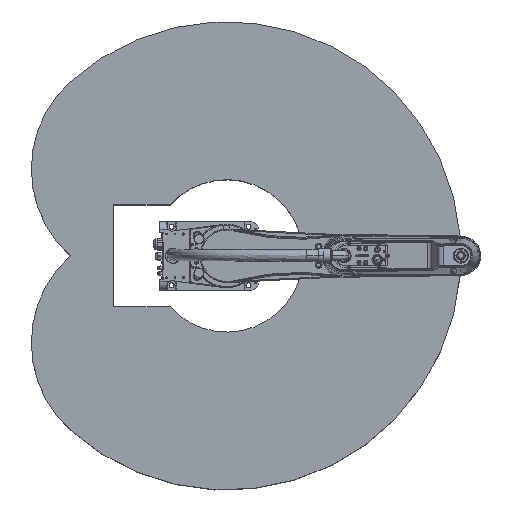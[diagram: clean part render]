
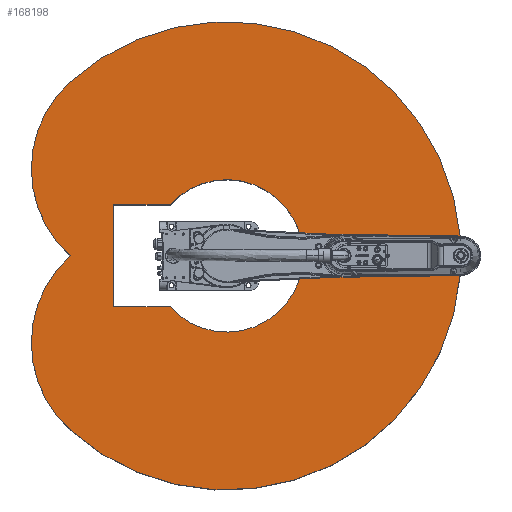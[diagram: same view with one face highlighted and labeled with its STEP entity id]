
A CAD part, top view. The second image highlights one B-rep face of the part: STEP entity #168198.
In plain terms, the highlighted planar face has unit normal (0, 0, 1) as drawn and (0, 1, 0) by its records, which use the part's own axes.
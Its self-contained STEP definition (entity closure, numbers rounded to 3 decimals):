
#310 = ORIENTED_EDGE ( 'NONE', *, *, #35679, .F. ) ;
#2119 = DIRECTION ( 'NONE',  ( 0., 0., -1. ) ) ;
#2168 = CIRCLE ( 'NONE', #8223, 350. ) ;
#4419 = FACE_OUTER_BOUND ( 'NONE', #53969, .T. ) ;
#7558 = DIRECTION ( 'NONE',  ( 0., -1., 0. ) ) ;
#8223 = AXIS2_PLACEMENT_3D ( 'NONE', #121255, #7558, #135933 ) ;
#9644 = CARTESIAN_POINT ( 'NONE',  ( 130.05, 188., 337.5 ) ) ;
#12552 = LINE ( 'NONE', #9644, #178453 ) ;
#13416 = CIRCLE ( 'NONE', #123381, 227.9 ) ;
#14490 = AXIS2_PLACEMENT_3D ( 'NONE', #116243, #43794, #176071 ) ;
#14611 = VERTEX_POINT ( 'NONE', #50019 ) ;
#15288 = ORIENTED_EDGE ( 'NONE', *, *, #32590, .F. ) ;
#16310 = CARTESIAN_POINT ( 'NONE',  ( -260.101, 188., 234.196 ) ) ;
#16661 = AXIS2_PLACEMENT_3D ( 'NONE', #16310, #118514, #161859 ) ;
#18734 = CARTESIAN_POINT ( 'NONE',  ( 0., 188., 0. ) ) ;
#19315 = AXIS2_PLACEMENT_3D ( 'NONE', #156279, #71634, #127020 ) ;
#22034 = CIRCLE ( 'NONE', #14490, 700. ) ;
#25751 = VERTEX_POINT ( 'NONE', #32998 ) ;
#27662 = VERTEX_POINT ( 'NONE', #166182 ) ;
#28557 = PLANE ( 'NONE',  #147611 ) ;
#29866 = DIRECTION ( 'NONE',  ( 0., 0., 1. ) ) ;
#31867 = ORIENTED_EDGE ( 'NONE', *, *, #147370, .T. ) ;
#32223 = VERTEX_POINT ( 'NONE', #42579 ) ;
#32590 = EDGE_CURVE ( 'NONE', #25751, #172630, #2168, .T. ) ;
#32998 = CARTESIAN_POINT ( 'NONE',  ( -260.101, 188., 584.196 ) ) ;
#35679 = EDGE_CURVE ( 'NONE', #14611, #168258, #124253, .T. ) ;
#37430 = ORIENTED_EDGE ( 'NONE', *, *, #176707, .T. ) ;
#42579 = CARTESIAN_POINT ( 'NONE',  ( 152.5, 188., 337.5 ) ) ;
#43794 = DIRECTION ( 'NONE',  ( 0., -1., 0. ) ) ;
#49047 = CARTESIAN_POINT ( 'NONE',  ( -152.5, 188., 337.5 ) ) ;
#50019 = CARTESIAN_POINT ( 'NONE',  ( 520.201, 188., 468.391 ) ) ;
#53969 = EDGE_LOOP ( 'NONE', ( #175449, #144225, #310, #134317, #15288 ) ) ;
#61155 = CARTESIAN_POINT ( 'NONE',  ( 152.5, 188., 169.358 ) ) ;
#63051 = VECTOR ( 'NONE', #79487, 1000. ) ;
#71631 = EDGE_CURVE ( 'NONE', #134222, #158956, #110060, .T. ) ;
#71634 = DIRECTION ( 'NONE',  ( 0., -1., 0. ) ) ;
#78701 = EDGE_CURVE ( 'NONE', #100591, #32223, #110824, .T. ) ;
#78994 = DIRECTION ( 'NONE',  ( 0., 0., 1. ) ) ;
#79439 = FACE_BOUND ( 'NONE', #88174, .T. ) ;
#79487 = DIRECTION ( 'NONE',  ( 0., 0., 1. ) ) ;
#88174 = EDGE_LOOP ( 'NONE', ( #31867, #141611, #37430, #149415 ) ) ;
#89045 = CARTESIAN_POINT ( 'NONE',  ( -152.5, 188., 117.098 ) ) ;
#89804 = CARTESIAN_POINT ( 'NONE',  ( -520.201, 188., 468.391 ) ) ;
#92474 = EDGE_CURVE ( 'NONE', #27662, #25751, #111440, .T. ) ;
#100591 = VERTEX_POINT ( 'NONE', #61155 ) ;
#102126 = CARTESIAN_POINT ( 'NONE',  ( 260.101, 188., 584.196 ) ) ;
#110060 = LINE ( 'NONE', #89045, #144341 ) ;
#110352 = EDGE_CURVE ( 'NONE', #172630, #14611, #22034, .T. ) ;
#110824 = LINE ( 'NONE', #135522, #63051 ) ;
#111440 = CIRCLE ( 'NONE', #16661, 350. ) ;
#114304 = DIRECTION ( 'NONE',  ( 0., 0., 1. ) ) ;
#116243 = CARTESIAN_POINT ( 'NONE',  ( 0., 188., 0. ) ) ;
#118514 = DIRECTION ( 'NONE',  ( 0., -1., 0. ) ) ;
#121255 = CARTESIAN_POINT ( 'NONE',  ( -260.101, 188., 234.196 ) ) ;
#121334 = CARTESIAN_POINT ( 'NONE',  ( 260.101, 188., 234.196 ) ) ;
#123381 = AXIS2_PLACEMENT_3D ( 'NONE', #18734, #180778, #78994 ) ;
#124253 = CIRCLE ( 'NONE', #19315, 350. ) ;
#127020 = DIRECTION ( 'NONE',  ( 0., 0., 1. ) ) ;
#134222 = VERTEX_POINT ( 'NONE', #49047 ) ;
#134317 = ORIENTED_EDGE ( 'NONE', *, *, #110352, .F. ) ;
#135522 = CARTESIAN_POINT ( 'NONE',  ( 152.5, 188., 117.098 ) ) ;
#135933 = DIRECTION ( 'NONE',  ( 0., 0., 1. ) ) ;
#137086 = EDGE_CURVE ( 'NONE', #168258, #27662, #169368, .T. ) ;
#141611 = ORIENTED_EDGE ( 'NONE', *, *, #78701, .T. ) ;
#144225 = ORIENTED_EDGE ( 'NONE', *, *, #137086, .F. ) ;
#144341 = VECTOR ( 'NONE', #2119, 1000. ) ;
#144882 = CARTESIAN_POINT ( 'NONE',  ( 130.05, 188., 117.098 ) ) ;
#147370 = EDGE_CURVE ( 'NONE', #158956, #100591, #13416, .T. ) ;
#147611 = AXIS2_PLACEMENT_3D ( 'NONE', #144882, #188073, #114304 ) ;
#149415 = ORIENTED_EDGE ( 'NONE', *, *, #71631, .T. ) ;
#152662 = DIRECTION ( 'NONE',  ( -1., 0., 0. ) ) ;
#156279 = CARTESIAN_POINT ( 'NONE',  ( 260.101, 188., 234.196 ) ) ;
#158854 = CARTESIAN_POINT ( 'NONE',  ( -152.5, 188., 169.358 ) ) ;
#158956 = VERTEX_POINT ( 'NONE', #158854 ) ;
#161859 = DIRECTION ( 'NONE',  ( 0., 0., 1. ) ) ;
#162681 = AXIS2_PLACEMENT_3D ( 'NONE', #121334, #165267, #29866 ) ;
#165267 = DIRECTION ( 'NONE',  ( 0., -1., 0. ) ) ;
#166182 = CARTESIAN_POINT ( 'NONE',  ( 0., 188., 468.391 ) ) ;
#168198 = ADVANCED_FACE ( 'NONE', ( #4419, #79439 ), #28557, .T. ) ;
#168258 = VERTEX_POINT ( 'NONE', #102126 ) ;
#169368 = CIRCLE ( 'NONE', #162681, 350. ) ;
#172630 = VERTEX_POINT ( 'NONE', #89804 ) ;
#175449 = ORIENTED_EDGE ( 'NONE', *, *, #92474, .F. ) ;
#176071 = DIRECTION ( 'NONE',  ( 0., 0., 1. ) ) ;
#176707 = EDGE_CURVE ( 'NONE', #32223, #134222, #12552, .T. ) ;
#178453 = VECTOR ( 'NONE', #152662, 1000. ) ;
#180778 = DIRECTION ( 'NONE',  ( 0., -1., 0. ) ) ;
#188073 = DIRECTION ( 'NONE',  ( 0., 1., 0. ) ) ;
